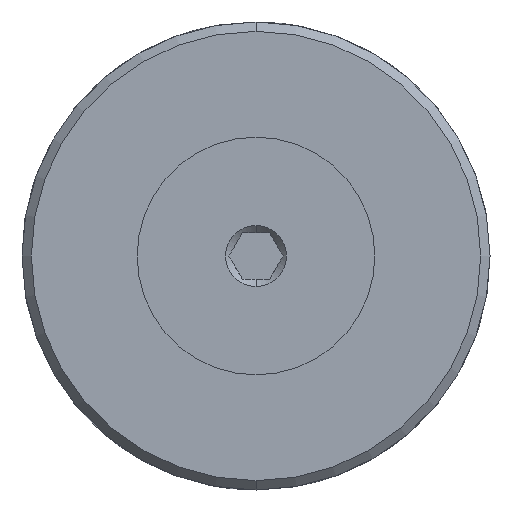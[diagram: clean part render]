
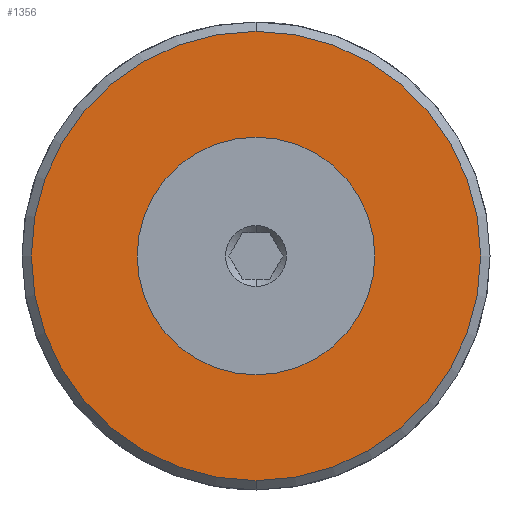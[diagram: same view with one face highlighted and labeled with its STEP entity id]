
A CAD part, front view. The second image highlights one B-rep face of the part: STEP entity #1356.
In plain terms, the highlighted planar face has unit normal (0, -1, 0).
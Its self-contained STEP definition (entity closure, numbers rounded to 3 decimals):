
#32 = EDGE_CURVE ( 'NONE', #96, #1690, #1191, .T. ) ;
#66 = CARTESIAN_POINT ( 'NONE',  ( 0., 0., 0. ) ) ;
#96 = VERTEX_POINT ( 'NONE', #1753 ) ;
#138 = VERTEX_POINT ( 'NONE', #278 ) ;
#278 = CARTESIAN_POINT ( 'NONE',  ( 0., 0., -24. ) ) ;
#368 = ORIENTED_EDGE ( 'NONE', *, *, #2382, .T. ) ;
#385 = DIRECTION ( 'NONE',  ( 0., 1., 0. ) ) ;
#431 = DIRECTION ( 'NONE',  ( 0., 0., 1. ) ) ;
#437 = EDGE_LOOP ( 'NONE', ( #368, #1196 ) ) ;
#479 = EDGE_CURVE ( 'NONE', #138, #1454, #1331, .T. ) ;
#529 = AXIS2_PLACEMENT_3D ( 'NONE', #66, #905, #2669 ) ;
#571 = AXIS2_PLACEMENT_3D ( 'NONE', #622, #1313, #431 ) ;
#622 = CARTESIAN_POINT ( 'NONE',  ( 0., 0., 0. ) ) ;
#777 = FACE_BOUND ( 'NONE', #2066, .T. ) ;
#784 = EDGE_CURVE ( 'NONE', #1690, #96, #2358, .T. ) ;
#853 = CARTESIAN_POINT ( 'NONE',  ( 0., 0., 0. ) ) ;
#905 = DIRECTION ( 'NONE',  ( 0., 1., 0. ) ) ;
#998 = DIRECTION ( 'NONE',  ( 0., -1., 0. ) ) ;
#1066 = DIRECTION ( 'NONE',  ( 0., 0., 1. ) ) ;
#1191 = CIRCLE ( 'NONE', #571, 8. ) ;
#1196 = ORIENTED_EDGE ( 'NONE', *, *, #479, .T. ) ;
#1244 = DIRECTION ( 'NONE',  ( 0., 0., 1. ) ) ;
#1313 = DIRECTION ( 'NONE',  ( 0., 1., 0. ) ) ;
#1331 = CIRCLE ( 'NONE', #1952, 24. ) ;
#1356 = ADVANCED_FACE ( 'NONE', ( #1448, #777 ), #1847, .F. ) ;
#1385 = ORIENTED_EDGE ( 'NONE', *, *, #784, .T. ) ;
#1388 = AXIS2_PLACEMENT_3D ( 'NONE', #853, #1696, #1066 ) ;
#1448 = FACE_OUTER_BOUND ( 'NONE', #437, .T. ) ;
#1454 = VERTEX_POINT ( 'NONE', #1682 ) ;
#1673 = CARTESIAN_POINT ( 'NONE',  ( 0., 0., 8. ) ) ;
#1682 = CARTESIAN_POINT ( 'NONE',  ( 0., 0., 24. ) ) ;
#1690 = VERTEX_POINT ( 'NONE', #1673 ) ;
#1696 = DIRECTION ( 'NONE',  ( 0., -1., 0. ) ) ;
#1753 = CARTESIAN_POINT ( 'NONE',  ( 0., 0., -8. ) ) ;
#1847 = PLANE ( 'NONE',  #2584 ) ;
#1952 = AXIS2_PLACEMENT_3D ( 'NONE', #2257, #998, #2314 ) ;
#2066 = EDGE_LOOP ( 'NONE', ( #2206, #1385 ) ) ;
#2206 = ORIENTED_EDGE ( 'NONE', *, *, #32, .T. ) ;
#2257 = CARTESIAN_POINT ( 'NONE',  ( 0., 0., 0. ) ) ;
#2305 = CARTESIAN_POINT ( 'NONE',  ( 0., 0., 0. ) ) ;
#2314 = DIRECTION ( 'NONE',  ( 0., 0., 1. ) ) ;
#2358 = CIRCLE ( 'NONE', #529, 8. ) ;
#2382 = EDGE_CURVE ( 'NONE', #1454, #138, #2462, .T. ) ;
#2462 = CIRCLE ( 'NONE', #1388, 24. ) ;
#2584 = AXIS2_PLACEMENT_3D ( 'NONE', #2305, #385, #1244 ) ;
#2669 = DIRECTION ( 'NONE',  ( 0., 0., 1. ) ) ;
